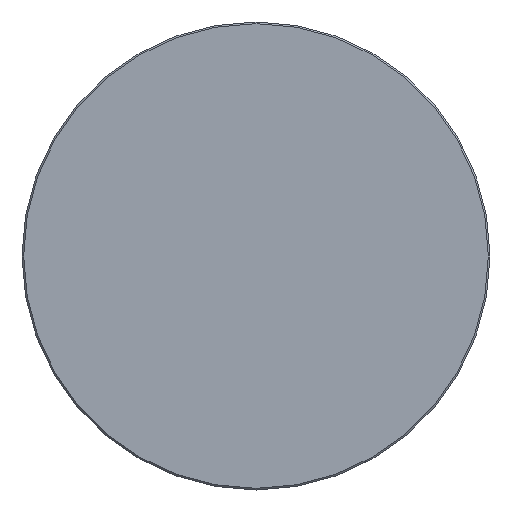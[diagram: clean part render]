
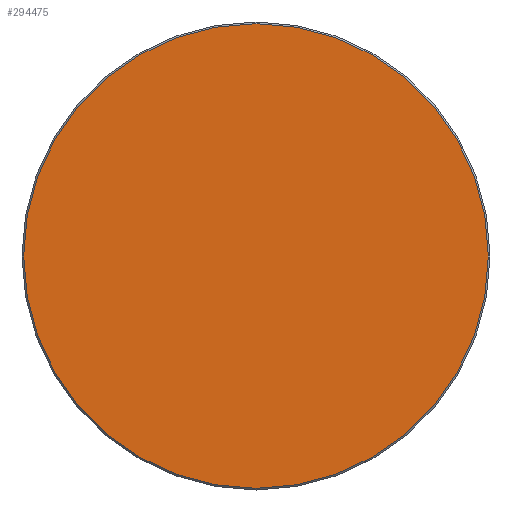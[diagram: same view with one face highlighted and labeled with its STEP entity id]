
A CAD part, top view. The second image highlights one B-rep face of the part: STEP entity #294475.
In plain terms, the highlighted planar face has unit normal (0, 0, 1).
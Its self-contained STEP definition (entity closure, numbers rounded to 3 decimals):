
#294452=CARTESIAN_POINT('',(1108.,264.,751.5));
#294453=VERTEX_POINT('',#294452);
#294454=CARTESIAN_POINT('',(264.,264.,751.5));
#294455=DIRECTION('',(0.0,0.0,-1.0));
#294456=DIRECTION('',(-1.0,0.0,0.0));
#294457=AXIS2_PLACEMENT_3D('',#294454,#294455,#294456);
#294458=CIRCLE('',#294457,844.0);
#294459=EDGE_CURVE('',#294453,#294453,#294458,.T.);
#294467=CARTESIAN_POINT('',(264.,264.,751.5));
#294468=DIRECTION('',(0.0,0.0,-1.0));
#294469=DIRECTION('',(-1.0,0.0,0.0));
#294470=AXIS2_PLACEMENT_3D('',#294467,#294468,#294469);
#294471=PLANE('',#294470);
#294472=ORIENTED_EDGE('',*,*,#294459,.F.);
#294473=EDGE_LOOP('',(#294472));
#294474=FACE_OUTER_BOUND('',#294473,.T.);
#294475=ADVANCED_FACE('',(#294474),#294471,.F.);
